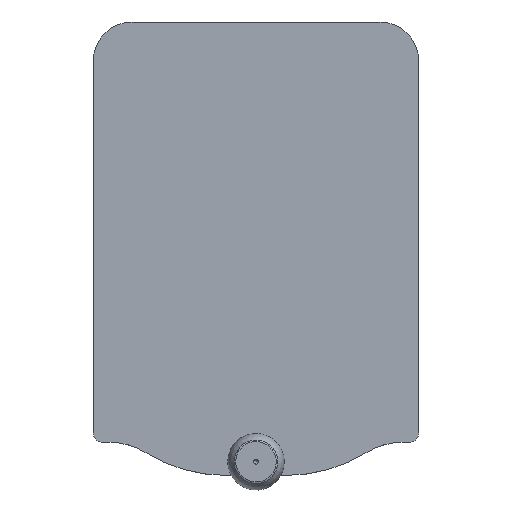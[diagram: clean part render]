
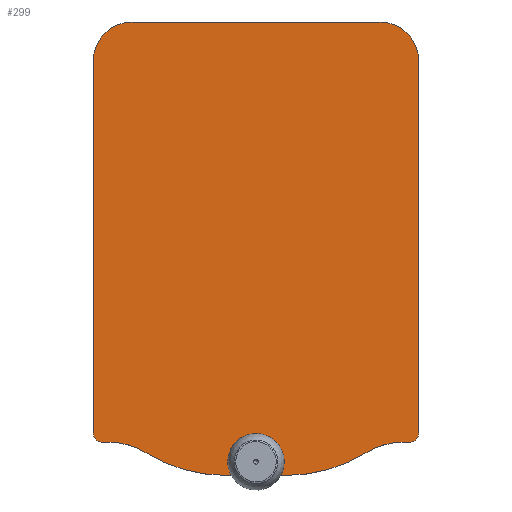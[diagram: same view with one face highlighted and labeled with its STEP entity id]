
A CAD part, top view. The second image highlights one B-rep face of the part: STEP entity #299.
In plain terms, the highlighted planar face has unit normal (0, 0, 1).
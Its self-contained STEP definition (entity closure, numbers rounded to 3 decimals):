
#299=ADVANCED_FACE('',(#376,#377),#353,.T.);
#353=PLANE('',#1102);
#376=FACE_BOUND('',#420,.T.);
#377=FACE_BOUND('',#421,.T.);
#420=EDGE_LOOP('',(#586,#587,#588,#589,#590,#591,#592,#593,#594,#595,#596,
#597,#598,#599));
#421=EDGE_LOOP('',(#600));
#512=CIRCLE('',#1093,8.2);
#513=CIRCLE('',#1094,2.);
#514=CIRCLE('',#1095,15.);
#515=CIRCLE('',#1096,32.071);
#516=CIRCLE('',#1097,32.071);
#517=CIRCLE('',#1098,15.);
#518=CIRCLE('',#1099,2.);
#519=CIRCLE('',#1100,8.2);
#520=CIRCLE('',#1101,2.8);
#586=ORIENTED_EDGE('',*,*,#889,.F.);
#587=ORIENTED_EDGE('',*,*,#890,.T.);
#588=ORIENTED_EDGE('',*,*,#891,.F.);
#589=ORIENTED_EDGE('',*,*,#892,.T.);
#590=ORIENTED_EDGE('',*,*,#893,.T.);
#591=ORIENTED_EDGE('',*,*,#894,.T.);
#592=ORIENTED_EDGE('',*,*,#895,.F.);
#593=ORIENTED_EDGE('',*,*,#896,.F.);
#594=ORIENTED_EDGE('',*,*,#897,.T.);
#595=ORIENTED_EDGE('',*,*,#898,.T.);
#596=ORIENTED_EDGE('',*,*,#899,.F.);
#597=ORIENTED_EDGE('',*,*,#900,.T.);
#598=ORIENTED_EDGE('',*,*,#887,.F.);
#599=ORIENTED_EDGE('',*,*,#901,.T.);
#600=ORIENTED_EDGE('',*,*,#902,.F.);
#804=VERTEX_POINT('',#1528);
#805=VERTEX_POINT('',#1530);
#806=VERTEX_POINT('',#1534);
#807=VERTEX_POINT('',#1535);
#808=VERTEX_POINT('',#1537);
#809=VERTEX_POINT('',#1539);
#810=VERTEX_POINT('',#1541);
#811=VERTEX_POINT('',#1543);
#812=VERTEX_POINT('',#1545);
#813=VERTEX_POINT('',#1547);
#814=VERTEX_POINT('',#1549);
#815=VERTEX_POINT('',#1551);
#816=VERTEX_POINT('',#1553);
#817=VERTEX_POINT('',#1555);
#818=VERTEX_POINT('',#1559);
#887=EDGE_CURVE('',#804,#805,#979,.T.);
#889=EDGE_CURVE('',#806,#807,#981,.T.);
#890=EDGE_CURVE('',#806,#808,#512,.T.);
#891=EDGE_CURVE('',#809,#808,#982,.T.);
#892=EDGE_CURVE('',#809,#810,#513,.T.);
#893=EDGE_CURVE('',#810,#811,#983,.T.);
#894=EDGE_CURVE('',#811,#812,#514,.T.);
#895=EDGE_CURVE('',#813,#812,#515,.T.);
#896=EDGE_CURVE('',#814,#813,#984,.T.);
#897=EDGE_CURVE('',#814,#815,#516,.T.);
#898=EDGE_CURVE('',#815,#816,#517,.T.);
#899=EDGE_CURVE('',#817,#816,#985,.T.);
#900=EDGE_CURVE('',#817,#805,#518,.T.);
#901=EDGE_CURVE('',#804,#807,#519,.T.);
#902=EDGE_CURVE('',#818,#818,#520,.T.);
#979=LINE('',#1529,#1031);
#981=LINE('',#1533,#1033);
#982=LINE('',#1538,#1034);
#983=LINE('',#1542,#1035);
#984=LINE('',#1548,#1036);
#985=LINE('',#1554,#1037);
#1031=VECTOR('',#1239,1.);
#1033=VECTOR('',#1243,1.);
#1034=VECTOR('',#1246,1.);
#1035=VECTOR('',#1249,1.);
#1036=VECTOR('',#1254,1.);
#1037=VECTOR('',#1259,1.);
#1093=AXIS2_PLACEMENT_3D('',#1536,#1244,#1245);
#1094=AXIS2_PLACEMENT_3D('',#1540,#1247,#1248);
#1095=AXIS2_PLACEMENT_3D('',#1544,#1250,#1251);
#1096=AXIS2_PLACEMENT_3D('',#1546,#1252,#1253);
#1097=AXIS2_PLACEMENT_3D('',#1550,#1255,#1256);
#1098=AXIS2_PLACEMENT_3D('',#1552,#1257,#1258);
#1099=AXIS2_PLACEMENT_3D('',#1556,#1260,#1261);
#1100=AXIS2_PLACEMENT_3D('',#1557,#1262,#1263);
#1101=AXIS2_PLACEMENT_3D('',#1558,#1264,#1265);
#1102=AXIS2_PLACEMENT_3D('',#1560,#1266,#1267);
#1239=DIRECTION('',(0.,-1.,0.));
#1243=DIRECTION('',(1.,0.,0.));
#1244=DIRECTION('',(0.,0.,1.));
#1245=DIRECTION('',(1.,0.,0.));
#1246=DIRECTION('',(0.,1.,0.));
#1247=DIRECTION('',(0.,0.,1.));
#1248=DIRECTION('',(1.,0.,0.));
#1249=DIRECTION('',(1.,0.,0.));
#1250=DIRECTION('',(0.,0.,-1.));
#1251=DIRECTION('',(1.,0.,0.));
#1252=DIRECTION('',(0.,0.,-1.));
#1253=DIRECTION('',(-1.,0.,0.));
#1254=DIRECTION('',(-1.,0.,0.));
#1255=DIRECTION('',(0.,0.,1.));
#1256=DIRECTION('',(1.,0.,0.));
#1257=DIRECTION('',(0.,0.,-1.));
#1258=DIRECTION('',(1.,0.,0.));
#1259=DIRECTION('',(-1.,0.,0.));
#1260=DIRECTION('',(0.,0.,1.));
#1261=DIRECTION('',(1.,0.,0.));
#1262=DIRECTION('',(0.,0.,1.));
#1263=DIRECTION('',(1.,0.,0.));
#1264=DIRECTION('',(0.,0.,1.));
#1265=DIRECTION('',(1.,0.,0.));
#1266=DIRECTION('',(0.,0.,1.));
#1267=DIRECTION('',(1.,0.,0.));
#1528=CARTESIAN_POINT('',(34.45,55.8,6.15));
#1529=CARTESIAN_POINT('',(34.45,16.,6.15));
#1530=CARTESIAN_POINT('',(34.45,-23.,6.15));
#1533=CARTESIAN_POINT('',(-34.45,64.,6.15));
#1534=CARTESIAN_POINT('',(-26.25,64.,6.15));
#1535=CARTESIAN_POINT('',(26.25,64.,6.15));
#1536=CARTESIAN_POINT('',(-26.25,55.8,6.15));
#1537=CARTESIAN_POINT('',(-34.45,55.8,6.15));
#1538=CARTESIAN_POINT('',(-34.45,16.,6.15));
#1539=CARTESIAN_POINT('',(-34.45,-23.,6.15));
#1540=CARTESIAN_POINT('',(-32.45,-23.,6.15));
#1541=CARTESIAN_POINT('',(-32.45,-25.,6.15));
#1542=CARTESIAN_POINT('',(-34.45,-25.,6.15));
#1543=CARTESIAN_POINT('',(-31.148,-25.,6.15));
#1544=CARTESIAN_POINT('',(-31.148,-40.,6.15));
#1545=CARTESIAN_POINT('',(-23.278,-27.231,6.15));
#1546=CARTESIAN_POINT('',(-6.45,0.071,6.15));
#1547=CARTESIAN_POINT('',(-6.45,-32.,6.15));
#1548=CARTESIAN_POINT('',(0.,-32.,6.15));
#1549=CARTESIAN_POINT('',(6.45,-32.,6.15));
#1550=CARTESIAN_POINT('',(6.45,0.071,6.15));
#1551=CARTESIAN_POINT('',(23.278,-27.231,6.15));
#1552=CARTESIAN_POINT('',(31.148,-40.,6.15));
#1553=CARTESIAN_POINT('',(31.148,-25.,6.15));
#1554=CARTESIAN_POINT('',(34.45,-25.,6.15));
#1555=CARTESIAN_POINT('',(32.45,-25.,6.15));
#1556=CARTESIAN_POINT('',(32.45,-23.,6.15));
#1557=CARTESIAN_POINT('',(26.25,55.8,6.15));
#1558=CARTESIAN_POINT('',(0.,-29.15,6.15));
#1559=CARTESIAN_POINT('',(2.8,-29.15,6.15));
#1560=CARTESIAN_POINT('',(0.,16.,6.15));
